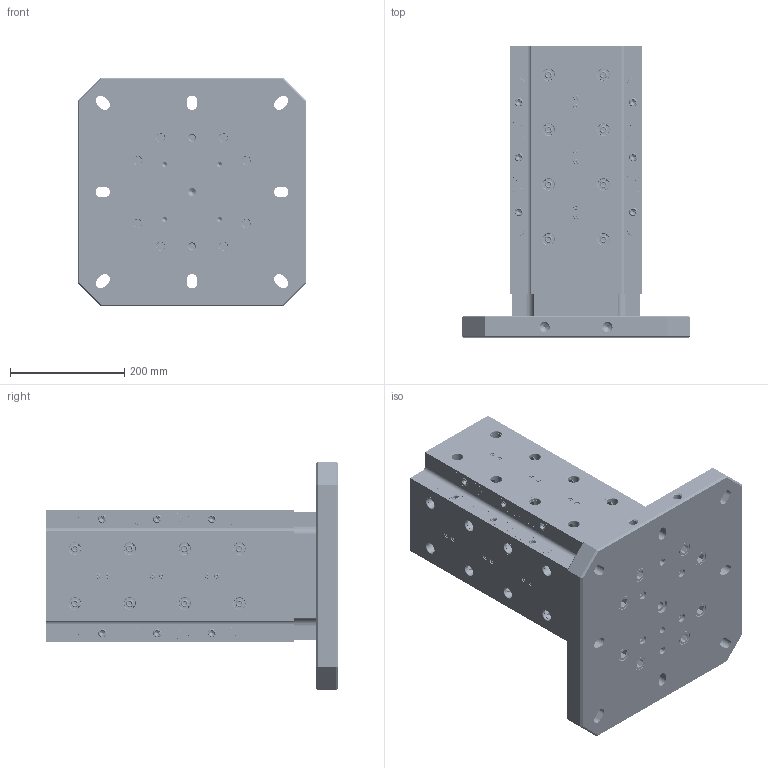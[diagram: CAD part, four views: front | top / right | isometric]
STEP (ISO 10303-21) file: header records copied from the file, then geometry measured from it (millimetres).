
FILE_DESCRIPTION (( 'STEP AP214' ), '1' );
FILE_NAME ('RL96A-4004U-510.STEP', '2025-08-19T16:22:22', ( '' ), ( '' ), 'SwSTEP 2.0', 'SolidWorks 2024', '' );
FILE_SCHEMA (( 'AUTOMOTIVE_DESIGN' ));
Length unit declared in the file: millimetre
Products named in the file (15): RL96A-4004U-510; HW27X20.DB_WEBSITE_PLATING; 033.OR; RL96-2L_WEBSITE; RL96-3_WEBSITE_PRE-PLATING; 156x2.OR  -  O-RING, 156mm ID X 2mm THK, BUNA-N, 70A; HW.76452_WEBSITE_91290A835; HW.76172_WEBSITE; MT-4472A_MACHINING; HW.202.OR_9452K183; SB54_FINISHED PART; RL96-14TC; RL96-4004BUA_WEBSITE; M10x020.DP_WEBSITE_91595A640; RL96-2R_WEBSITE_PLATING
Assembly tree (166 placements, depth 2):
  RL96A-4004U-510
    MT-4472A_MACHINING
    RL96-14TC
    RL96-2L_WEBSITE  x12
    RL96-2R_WEBSITE_PLATING  x12
    SB54_FINISHED PART  x24
    156x2.OR  -  O-RING, 156mm ID X 2mm THK, BUNA-N, 70A
    HW.76452_WEBSITE_91290A835  x8
    HW.76172_WEBSITE  x4
    M10x020.DP_WEBSITE_91595A640  x2
    HW27X20.DB_WEBSITE_PLATING  x32
    RL96-3_WEBSITE_PRE-PLATING  x12
    HW.202.OR_9452K183  x32
    033.OR  x24
    RL96-4004BUA_WEBSITE
Bounding box: 400 x 510.1 x 400 mm (x, y, z)
Volume: 19790327.1 mm3; surface area: 1942842.2 mm2
Topology: 166 solids, 166 shells, 3772 faces, 8790 edges, 5504 vertices
Faces by surface type: plane 2174, cylinder 1021, cone 357, torus 216, sphere 4
Full cylindrical faces by diameter (mm): 1.778 x48, 2 x9, 2.642 x24, 3.3 x24, 4 x24, 4.7 x24, 5 x28, 5.182 x24, 6 x4, 6.6 x4, 8.204 x24, 8.5 x4, 9 x24, 9.525 x24, 10 x6, 10.025 x4, 10.2 x4, 10.795 x12, 11 x4, 11.938 x32, 12 x1, 12.573 x32, 14 x36, 15.748 x24, 16 x8, 16.02 x4, 17.5 x16, 19.05 x24, 19.101 x32, 20 x12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
Entity records: 42487 total; most frequent: CARTESIAN_POINT 11797, DIRECTION 6304, ORIENTED_EDGE 4870, AXIS2_PLACEMENT_3D 2630, EDGE_CURVE 2435, EDGE_LOOP 2114, VERTEX_POINT 1827, FACE_OUTER_BOUND 1654
